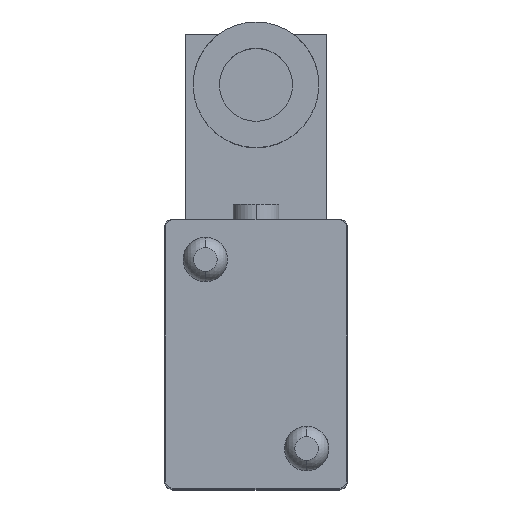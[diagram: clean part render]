
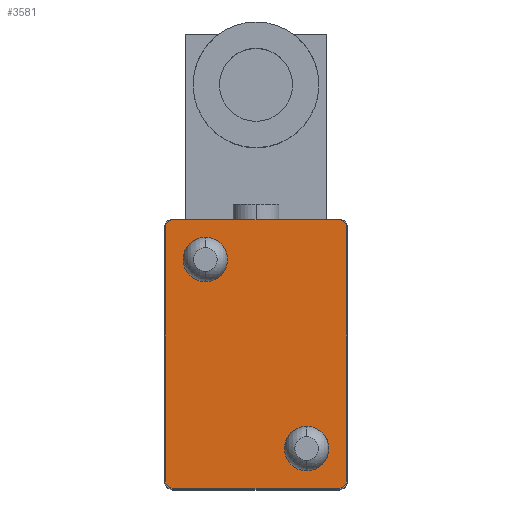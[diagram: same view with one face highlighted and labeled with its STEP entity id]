
A CAD part, top view. The second image highlights one B-rep face of the part: STEP entity #3581.
In plain terms, the highlighted planar face has unit normal (0, 0, 1).
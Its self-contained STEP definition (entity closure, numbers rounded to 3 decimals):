
#6 = DIRECTION ( 'NONE',  ( 0., 0., 1. ) ) ;
#29 = CARTESIAN_POINT ( 'NONE',  ( 12.2, 19.9, 8.2 ) ) ;
#90 = AXIS2_PLACEMENT_3D ( 'NONE', #126, #1026, #3384 ) ;
#106 = EDGE_CURVE ( 'NONE', #2397, #183, #3348, .T. ) ;
#126 = CARTESIAN_POINT ( 'NONE',  ( 7.5, -14., 8.2 ) ) ;
#183 = VERTEX_POINT ( 'NONE', #1039 ) ;
#194 = CIRCLE ( 'NONE', #2174, 1.2 ) ;
#199 = EDGE_CURVE ( 'NONE', #2218, #2397, #236, .T. ) ;
#236 = LINE ( 'NONE', #2863, #3119 ) ;
#237 = EDGE_LOOP ( 'NONE', ( #491, #1635 ) ) ;
#265 = FACE_BOUND ( 'NONE', #3420, .T. ) ;
#304 = ORIENTED_EDGE ( 'NONE', *, *, #1997, .T. ) ;
#349 = CIRCLE ( 'NONE', #3010, 3.3 ) ;
#366 = EDGE_CURVE ( 'NONE', #3577, #2218, #194, .T. ) ;
#393 = DIRECTION ( 'NONE',  ( 1., 0., 0. ) ) ;
#434 = EDGE_CURVE ( 'NONE', #629, #3577, #1244, .T. ) ;
#451 = DIRECTION ( 'NONE',  ( 0., 0., -1. ) ) ;
#491 = ORIENTED_EDGE ( 'NONE', *, *, #1270, .T. ) ;
#561 = CARTESIAN_POINT ( 'NONE',  ( 13.4, -18.7, 8.2 ) ) ;
#575 = CIRCLE ( 'NONE', #2060, 1.2 ) ;
#598 = VECTOR ( 'NONE', #1831, 1000. ) ;
#629 = VERTEX_POINT ( 'NONE', #29 ) ;
#653 = DIRECTION ( 'NONE',  ( 1., 0., 0. ) ) ;
#667 = ORIENTED_EDGE ( 'NONE', *, *, #434, .T. ) ;
#704 = CARTESIAN_POINT ( 'NONE',  ( -12.2, -18.7, 8.2 ) ) ;
#780 = CARTESIAN_POINT ( 'NONE',  ( -7.5, 14., 8.2 ) ) ;
#808 = CARTESIAN_POINT ( 'NONE',  ( -10.8, 14., 8.2 ) ) ;
#833 = AXIS2_PLACEMENT_3D ( 'NONE', #2568, #2272, #1968 ) ;
#905 = VERTEX_POINT ( 'NONE', #2547 ) ;
#909 = VERTEX_POINT ( 'NONE', #1929 ) ;
#1026 = DIRECTION ( 'NONE',  ( 0., 0., -1. ) ) ;
#1030 = AXIS2_PLACEMENT_3D ( 'NONE', #1876, #2490, #1247 ) ;
#1039 = CARTESIAN_POINT ( 'NONE',  ( -12.2, -19.9, 8.2 ) ) ;
#1046 = CARTESIAN_POINT ( 'NONE',  ( 12.2, 19.9, 8.2 ) ) ;
#1147 = CIRCLE ( 'NONE', #90, 3.3 ) ;
#1180 = PLANE ( 'NONE',  #833 ) ;
#1233 = CARTESIAN_POINT ( 'NONE',  ( 12.2, 18.7, 8.2 ) ) ;
#1244 = LINE ( 'NONE', #1046, #3430 ) ;
#1247 = DIRECTION ( 'NONE',  ( -1., 0., 0. ) ) ;
#1270 = EDGE_CURVE ( 'NONE', #2198, #3046, #3740, .T. ) ;
#1295 = ORIENTED_EDGE ( 'NONE', *, *, #1973, .T. ) ;
#1322 = DIRECTION ( 'NONE',  ( 0., 0., 1. ) ) ;
#1347 = CARTESIAN_POINT ( 'NONE',  ( -13.4, 18.7, 8.2 ) ) ;
#1562 = ORIENTED_EDGE ( 'NONE', *, *, #3798, .T. ) ;
#1635 = ORIENTED_EDGE ( 'NONE', *, *, #2494, .T. ) ;
#1700 = CIRCLE ( 'NONE', #1030, 3.3 ) ;
#1828 = VERTEX_POINT ( 'NONE', #3759 ) ;
#1831 = DIRECTION ( 'NONE',  ( 1., 0., 0. ) ) ;
#1840 = DIRECTION ( 'NONE',  ( -1., 0., 0. ) ) ;
#1871 = AXIS2_PLACEMENT_3D ( 'NONE', #2113, #6, #2926 ) ;
#1876 = CARTESIAN_POINT ( 'NONE',  ( -7.5, 14., 8.2 ) ) ;
#1929 = CARTESIAN_POINT ( 'NONE',  ( 10.8, -14., 8.2 ) ) ;
#1968 = DIRECTION ( 'NONE',  ( 1., 0., 0. ) ) ;
#1973 = EDGE_CURVE ( 'NONE', #2046, #905, #3551, .T. ) ;
#1985 = FACE_OUTER_BOUND ( 'NONE', #3397, .T. ) ;
#1997 = EDGE_CURVE ( 'NONE', #2949, #629, #575, .T. ) ;
#2046 = VERTEX_POINT ( 'NONE', #2745 ) ;
#2054 = DIRECTION ( 'NONE',  ( 0., 1., 0. ) ) ;
#2060 = AXIS2_PLACEMENT_3D ( 'NONE', #1233, #2344, #3820 ) ;
#2070 = AXIS2_PLACEMENT_3D ( 'NONE', #780, #451, #3419 ) ;
#2103 = CARTESIAN_POINT ( 'NONE',  ( -12.2, -19.9, 8.2 ) ) ;
#2113 = CARTESIAN_POINT ( 'NONE',  ( 12.2, -18.7, 8.2 ) ) ;
#2121 = LINE ( 'NONE', #2103, #598 ) ;
#2174 = AXIS2_PLACEMENT_3D ( 'NONE', #3001, #1322, #653 ) ;
#2198 = VERTEX_POINT ( 'NONE', #808 ) ;
#2218 = VERTEX_POINT ( 'NONE', #1347 ) ;
#2219 = DIRECTION ( 'NONE',  ( -1., 0., 0. ) ) ;
#2272 = DIRECTION ( 'NONE',  ( 0., 0., 1. ) ) ;
#2313 = CARTESIAN_POINT ( 'NONE',  ( -12.2, 19.9, 8.2 ) ) ;
#2344 = DIRECTION ( 'NONE',  ( 0., 0., 1. ) ) ;
#2397 = VERTEX_POINT ( 'NONE', #2668 ) ;
#2464 = ORIENTED_EDGE ( 'NONE', *, *, #199, .T. ) ;
#2490 = DIRECTION ( 'NONE',  ( 0., 0., -1. ) ) ;
#2494 = EDGE_CURVE ( 'NONE', #3046, #2198, #1700, .T. ) ;
#2513 = CARTESIAN_POINT ( 'NONE',  ( -4.2, 14., 8.2 ) ) ;
#2522 = EDGE_CURVE ( 'NONE', #1828, #909, #349, .T. ) ;
#2547 = CARTESIAN_POINT ( 'NONE',  ( 13.4, -18.7, 8.2 ) ) ;
#2568 = CARTESIAN_POINT ( 'NONE',  ( -12.2, 18.7, 8.2 ) ) ;
#2607 = LINE ( 'NONE', #561, #3189 ) ;
#2666 = AXIS2_PLACEMENT_3D ( 'NONE', #704, #3707, #393 ) ;
#2668 = CARTESIAN_POINT ( 'NONE',  ( -13.4, -18.7, 8.2 ) ) ;
#2708 = CARTESIAN_POINT ( 'NONE',  ( 13.4, 18.7, 8.2 ) ) ;
#2745 = CARTESIAN_POINT ( 'NONE',  ( 12.2, -19.9, 8.2 ) ) ;
#2863 = CARTESIAN_POINT ( 'NONE',  ( -13.4, 18.7, 8.2 ) ) ;
#2915 = FACE_BOUND ( 'NONE', #237, .T. ) ;
#2926 = DIRECTION ( 'NONE',  ( 1., 0., 0. ) ) ;
#2928 = ORIENTED_EDGE ( 'NONE', *, *, #3402, .T. ) ;
#2949 = VERTEX_POINT ( 'NONE', #2708 ) ;
#2956 = ORIENTED_EDGE ( 'NONE', *, *, #366, .T. ) ;
#3001 = CARTESIAN_POINT ( 'NONE',  ( -12.2, 18.7, 8.2 ) ) ;
#3004 = DIRECTION ( 'NONE',  ( 0., 0., -1. ) ) ;
#3010 = AXIS2_PLACEMENT_3D ( 'NONE', #3312, #3004, #1840 ) ;
#3046 = VERTEX_POINT ( 'NONE', #2513 ) ;
#3095 = ORIENTED_EDGE ( 'NONE', *, *, #3141, .T. ) ;
#3119 = VECTOR ( 'NONE', #3471, 1000. ) ;
#3141 = EDGE_CURVE ( 'NONE', #905, #2949, #2607, .T. ) ;
#3168 = ORIENTED_EDGE ( 'NONE', *, *, #106, .T. ) ;
#3189 = VECTOR ( 'NONE', #2054, 1000. ) ;
#3211 = ORIENTED_EDGE ( 'NONE', *, *, #2522, .T. ) ;
#3312 = CARTESIAN_POINT ( 'NONE',  ( 7.5, -14., 8.2 ) ) ;
#3348 = CIRCLE ( 'NONE', #2666, 1.2 ) ;
#3384 = DIRECTION ( 'NONE',  ( -1., 0., 0. ) ) ;
#3397 = EDGE_LOOP ( 'NONE', ( #2956, #2464, #3168, #1562, #1295, #3095, #304, #667 ) ) ;
#3402 = EDGE_CURVE ( 'NONE', #909, #1828, #1147, .T. ) ;
#3419 = DIRECTION ( 'NONE',  ( -1., 0., 0. ) ) ;
#3420 = EDGE_LOOP ( 'NONE', ( #3211, #2928 ) ) ;
#3430 = VECTOR ( 'NONE', #2219, 1000. ) ;
#3471 = DIRECTION ( 'NONE',  ( 0., -1., 0. ) ) ;
#3551 = CIRCLE ( 'NONE', #1871, 1.2 ) ;
#3577 = VERTEX_POINT ( 'NONE', #2313 ) ;
#3581 = ADVANCED_FACE ( 'NONE', ( #1985, #2915, #265 ), #1180, .T. ) ;
#3707 = DIRECTION ( 'NONE',  ( 0., 0., 1. ) ) ;
#3740 = CIRCLE ( 'NONE', #2070, 3.3 ) ;
#3759 = CARTESIAN_POINT ( 'NONE',  ( 4.2, -14., 8.2 ) ) ;
#3798 = EDGE_CURVE ( 'NONE', #183, #2046, #2121, .T. ) ;
#3820 = DIRECTION ( 'NONE',  ( 1., 0., 0. ) ) ;
